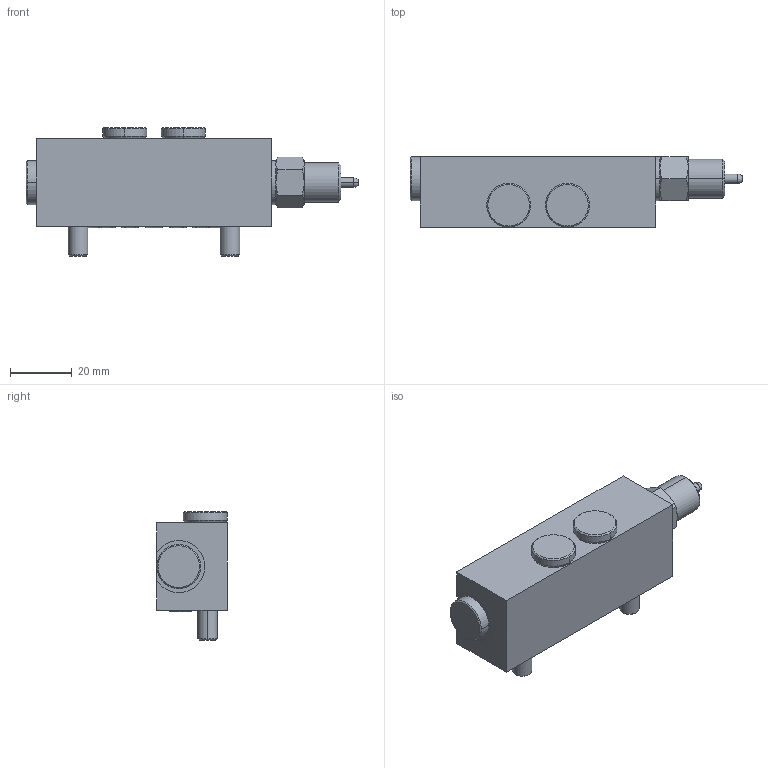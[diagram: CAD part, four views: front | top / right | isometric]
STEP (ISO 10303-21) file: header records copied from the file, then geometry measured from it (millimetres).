
FILE_DESCRIPTION((''),'2;1');
FILE_NAME('562729-EN-K_PRT','2020-03-05T07:49:15',('qusrh3'),(''),'CREO PARAMETRIC BY PTC INC, 2019030','CREO PARAMETRIC BY PTC INC, 2019030','');
FILE_SCHEMA(('CONFIG_CONTROL_DESIGN'));
Length unit declared in the file: inch
Products named in the file (1): 562729-EN-K_PRT
Bounding box: 107.59 x 22.86 x 41.66 mm (x, y, z)
Surface area: 13370.7 mm2 (no closed solid volume)
Topology: 0 solids, 18 shells, 88 faces, 204 edges, 126 vertices
Faces by surface type: cone 28, plane 22, cylinder 18, torus 18, bspline 2
Entity records: 2648 total; most frequent: CARTESIAN_POINT 604, DIRECTION 474, ORIENTED_EDGE 356, AXIS2_PLACEMENT_3D 208, EDGE_CURVE 204, VERTEX_POINT 126, CIRCLE 122, EDGE_LOOP 88
